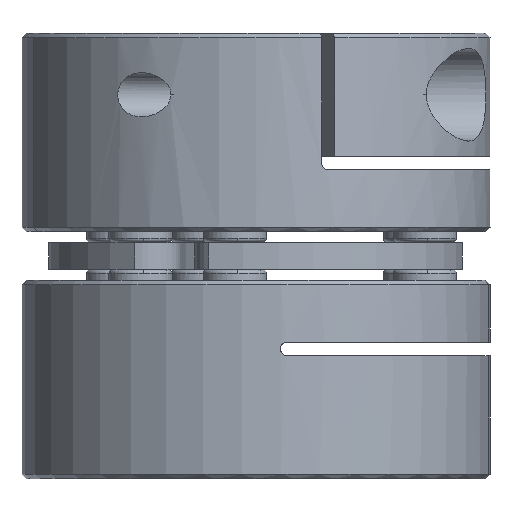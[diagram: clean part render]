
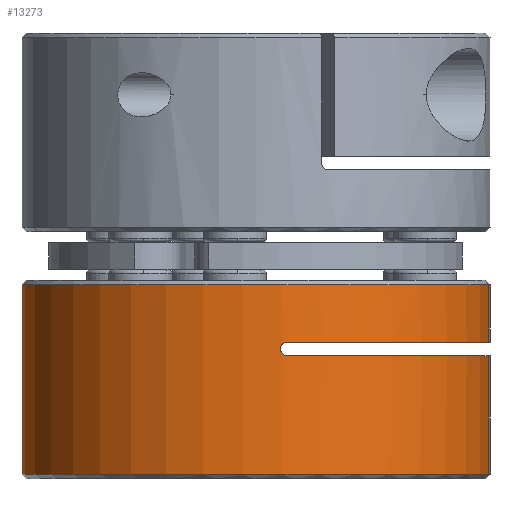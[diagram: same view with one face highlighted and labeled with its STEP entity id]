
A CAD part, front view. The second image highlights one B-rep face of the part: STEP entity #13273.
In plain terms, the highlighted cylindrical face has radius 26.5 mm (diameter 53 mm), a partial arc.
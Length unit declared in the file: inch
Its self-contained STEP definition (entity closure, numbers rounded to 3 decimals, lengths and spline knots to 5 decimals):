
#3762=CARTESIAN_POINT('',(0.,0.,1.35783));
#3763=DIRECTION('',(0.,0.,1.));
#3764=DIRECTION('',(-1.,0.,0.));
#3765=AXIS2_PLACEMENT_3D('',#3762,#3763,#3764);
#3793=CARTESIAN_POINT('',(0.,0.,1.35783));
#3794=DIRECTION('',(0.,0.,1.));
#3795=DIRECTION('',(-0.993,0.122,0.));
#3796=AXIS2_PLACEMENT_3D('',#3793,#3794,#3795);
#3808=DIRECTION('',(0.,0.,-1.));
#3809=VECTOR('',#3808,0.84583);
#3810=CARTESIAN_POINT('',(-1.03553,0.12715,
1.35783));
#3811=LINE('',#3810,#3809);
#3815=DIRECTION('',(0.,0.,1.));
#3816=VECTOR('',#3815,0.25583);
#3817=CARTESIAN_POINT('',(1.03553,-0.12715,1.102));
#3818=LINE('',#3817,#3816);
#3822=CARTESIAN_POINT('',(0.10939,-1.03756,1.073));
#3823=CARTESIAN_POINT('',(0.10939,-1.03756,
1.07607));
#3824=CARTESIAN_POINT('',(0.1104,-1.03745,
1.08191));
#3825=CARTESIAN_POINT('',(0.11463,-1.037,
1.09014));
#3826=CARTESIAN_POINT('',(0.1213,-1.03624,
1.09672));
#3827=CARTESIAN_POINT('',(0.12987,-1.03521,
1.10099));
#3828=CARTESIAN_POINT('',(0.13609,-1.0344,
1.102));
#3829=CARTESIAN_POINT('',(0.1394,-1.03395,1.102));
#3834=CARTESIAN_POINT('',(0.1394,-1.03395,1.042));
#3835=CARTESIAN_POINT('',(0.13609,-1.0344,1.042));
#3836=CARTESIAN_POINT('',(0.12985,-1.03521,
1.04305));
#3837=CARTESIAN_POINT('',(0.12132,-1.03624,
1.04728));
#3838=CARTESIAN_POINT('',(0.11462,-1.037,
1.05384));
#3839=CARTESIAN_POINT('',(0.11035,-1.03746,
1.06208));
#3840=CARTESIAN_POINT('',(0.10939,-1.03756,
1.06793));
#3841=CARTESIAN_POINT('',(0.10939,-1.03756,1.071));
#3912=CARTESIAN_POINT('',(0.,0.,1.102));
#3913=DIRECTION('',(0.,0.,-1.));
#3914=DIRECTION('',(0.993,-0.122,0.));
#3915=AXIS2_PLACEMENT_3D('',#3912,#3913,#3914);
#4767=CARTESIAN_POINT('',(0.,0.,1.042));
#4768=DIRECTION('',(0.,0.,1.));
#4769=DIRECTION('',(0.134,-0.991,0.));
#4770=AXIS2_PLACEMENT_3D('',#4767,#4768,#4769);
#4797=DIRECTION('',(0.,0.,-1.));
#4798=VECTOR('',#4797,0.53);
#4799=CARTESIAN_POINT('',(1.03553,-0.12715,1.042));
#4800=LINE('',#4799,#4798);
#4811=CARTESIAN_POINT('',(0.,0.,0.512));
#4812=DIRECTION('',(0.,0.,-1.));
#4813=DIRECTION('',(0.993,-0.122,0.));
#4814=AXIS2_PLACEMENT_3D('',#4811,#4812,#4813);
#4835=CARTESIAN_POINT('',(0.,0.,0.512));
#4836=DIRECTION('',(0.,0.,-1.));
#4837=DIRECTION('',(-1.,0.,0.));
#4838=AXIS2_PLACEMENT_3D('',#4835,#4836,#4837);
#5232=DIRECTION('',(0.,0.,-1.));
#5233=VECTOR('',#5232,0.002);
#5234=CARTESIAN_POINT('',(0.10939,-1.03756,1.073));
#5235=LINE('',#5234,#5233);
#8993=VERTEX_POINT('',#3834);
#8994=VERTEX_POINT('',#3841);
#9084=CARTESIAN_POINT('',(-1.03553,0.12715,
1.35783));
#9086=VERTEX_POINT('',#9084);
#9111=CARTESIAN_POINT('',(1.03553,-0.12715,
1.35783));
#9113=VERTEX_POINT('',#9111);
#9251=CARTESIAN_POINT('',(-1.04331,0.,1.35783));
#9252=VERTEX_POINT('',#9251);
#9492=CARTESIAN_POINT('',(1.03553,-0.12715,1.042));
#9493=VERTEX_POINT('',#9492);
#9592=CARTESIAN_POINT('',(1.03553,-0.12715,0.512));
#9593=VERTEX_POINT('',#9592);
#9600=CARTESIAN_POINT('',(0.10939,-1.03756,1.073));
#9601=VERTEX_POINT('',#9600);
#9605=CARTESIAN_POINT('',(1.03553,-0.12715,1.102));
#9607=VERTEX_POINT('',#9605);
#9919=CARTESIAN_POINT('',(-1.04331,0.,0.512));
#9920=CARTESIAN_POINT('',(-1.03553,0.12715,0.512));
#9921=VERTEX_POINT('',#9919);
#9922=VERTEX_POINT('',#9920);
#10203=VERTEX_POINT('',#3829);
#13244=CARTESIAN_POINT('',(0.,0.,0.492));
#13245=DIRECTION('',(0.,0.,1.));
#13246=DIRECTION('',(1.,0.,0.));
#13247=AXIS2_PLACEMENT_3D('',#13244,#13245,#13246);
#13248=CYLINDRICAL_SURFACE('',#13247,1.04331);
#13250=ORIENTED_EDGE('',*,*,#13249,.F.);
#13251=ORIENTED_EDGE('',*,*,#13237,.T.);
#13252=ORIENTED_EDGE('',*,*,#13207,.T.);
#13254=ORIENTED_EDGE('',*,*,#13253,.F.);
#13256=ORIENTED_EDGE('',*,*,#13255,.T.);
#13258=ORIENTED_EDGE('',*,*,#13257,.F.);
#13260=ORIENTED_EDGE('',*,*,#13259,.T.);
#13262=ORIENTED_EDGE('',*,*,#13261,.F.);
#13264=ORIENTED_EDGE('',*,*,#13263,.T.);
#13266=ORIENTED_EDGE('',*,*,#13265,.T.);
#13268=ORIENTED_EDGE('',*,*,#13267,.T.);
#13270=ORIENTED_EDGE('',*,*,#13269,.T.);
#13271=EDGE_LOOP('',(#13250,#13251,#13252,#13254,#13256,#13258,#13260,#13262,
#13264,#13266,#13268,#13270));
#13272=FACE_OUTER_BOUND('',#13271,.F.);
#3766=CIRCLE('',#3765,1.04331);
#3797=CIRCLE('',#3796,1.04331);
#3830=B_SPLINE_CURVE_WITH_KNOTS('',3,(#3822,#3823,#3824,#3825,#3826,#3827,#3828,
#3829),.UNSPECIFIED.,.F.,.F.,(4,1,1,1,1,4),(0.,0.2,0.4,0.6,0.8,1.),
.UNSPECIFIED.);
#3842=B_SPLINE_CURVE_WITH_KNOTS('',3,(#3834,#3835,#3836,#3837,#3838,#3839,#3840,
#3841),.UNSPECIFIED.,.F.,.F.,(4,1,1,1,1,4),(0.,0.2,0.4,0.6,0.8,1.),
.UNSPECIFIED.);
#3916=CIRCLE('',#3915,1.04331);
#4771=CIRCLE('',#4770,1.04331);
#4815=CIRCLE('',#4814,1.04331);
#4839=CIRCLE('',#4838,1.04331);
#13207=EDGE_CURVE('',#9252,#9113,#3766,.T.);
#13237=EDGE_CURVE('',#9086,#9252,#3797,.T.);
#13249=EDGE_CURVE('',#9086,#9922,#3811,.T.);
#13253=EDGE_CURVE('',#9607,#9113,#3818,.T.);
#13255=EDGE_CURVE('',#9607,#10203,#3916,.T.);
#13257=EDGE_CURVE('',#9601,#10203,#3830,.T.);
#13259=EDGE_CURVE('',#9601,#8994,#5235,.T.);
#13261=EDGE_CURVE('',#8993,#8994,#3842,.T.);
#13263=EDGE_CURVE('',#8993,#9493,#4771,.T.);
#13265=EDGE_CURVE('',#9493,#9593,#4800,.T.);
#13267=EDGE_CURVE('',#9593,#9921,#4815,.T.);
#13269=EDGE_CURVE('',#9921,#9922,#4839,.T.);
#13273=ADVANCED_FACE('',(#13272),#13248,.T.);
